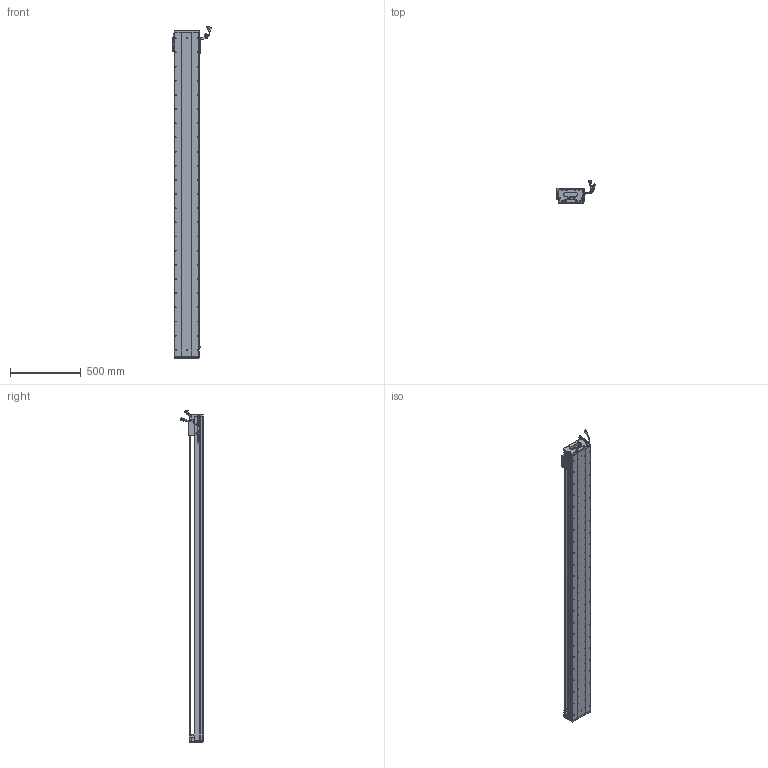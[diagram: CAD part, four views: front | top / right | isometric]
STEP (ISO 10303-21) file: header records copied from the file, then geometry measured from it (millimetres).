
FILE_DESCRIPTION (( 'STEP AP203' ), '1' );
FILE_NAME ('Z1-RY170D-1-L500-B-K.SLDASM_2100.step', '2021-05-17T08:54:41', ( '盈信电脑' ), ( '东莞市道滘镇水果街19号' ), 'SwSTEP 2.0', 'SolidWorks 2016', '' );
FILE_SCHEMA (( 'CONFIG_CONTROL_DESIGN' ));
Length unit declared in the file: millimetre
Products named in the file (36): Z-RY170詩湍奻揤裔; Z1-RY170臏賑輸(21遴); RY170直线电机感应器672光电感应片; SCREW-M1.6-1; SCALE-Part-1; SCREW-M1.6; Z1-RY170-L500耀郪菁釱_2100; COVER-Part-1; PBU_SHEET; SHIELDPLATE; 覜茼ん672; 080黍杅芛假蚾釱21遴; SEAL-Part-1; HARNESS-Part-1; COVER; LABEL-Part-1; SEAL; SCALE; 140雄赽晤鎢ん堤盄; SCREW-M1.6-3; Z-170詩湍傷裔啣; SCREW-M1.7; HOLDER0; Z1-RY170-L500詩湍145mm遵_2100; HARNESS-Part-2; SCREW-M1.7-1; 140蚥薯蝶輸; Z-RY170詩湍狟揤裔; SCALE-Part-2; Z1-RY170D-1-L500-B-K.SLDASM_2100; PSLH080_PSLF2; 170-Z-臏賑輸盄裔(21遴); SCREW-M1.6-2; HARNESS; LABEL; 榋妏寠巭燃_暯_M2_2
Assembly tree (41 placements, depth 4):
  Z1-RY170D-1-L500-B-K.SLDASM_2100
    Z1-RY170-L500耀郪菁釱_2100
    RY170直线电机感应器672光电感应片
    Z1-RY170臏賑輸(21遴)
    覜茼ん672  x3
    PSLH080_PSLF2
      SCALE
        SCALE-Part-1
        SCALE-Part-2
      HARNESS
        HARNESS-Part-1
        HARNESS-Part-2
      LABEL
        LABEL-Part-1
      COVER
        COVER-Part-1
      SEAL
        SEAL-Part-1
      榋妏寠巭燃_暯_M2_2
      SHIELDPLATE
      SCREW-M1.7
      SCREW-M1.7-1
      PBU_SHEET
      SCREW-M1.6
      SCREW-M1.6-1
      SCREW-M1.6-2
      SCREW-M1.6-3
      HOLDER0
    080黍杅芛假蚾釱21遴
    Z1-RY170-L500詩湍145mm遵_2100
    Z-170詩湍傷裔啣  x2
    Z-RY170詩湍奻揤裔  x2
    Z-RY170詩湍狟揤裔  x2
    140蚥薯蝶輸  x2
    170-Z-臏賑輸盄裔(21遴)
    140雄赽晤鎢ん堤盄
Bounding box: 275.34 x 158.11 x 2343.72 mm (x, y, z)
Volume: 11319418.7 mm3; surface area: 2829497.2 mm2
Topology: 36 solids, 36 shells, 3780 faces, 10455 edges, 6543 vertices
Faces by surface type: cylinder 1878, plane 1268, cone 512, torus 69, bspline 53
Entity records: 118103 total; most frequent: CARTESIAN_POINT 32956, ORIENTED_EDGE 17458, DIRECTION 16281, EDGE_CURVE 8729, AXIS2_PLACEMENT_3D 5974, VERTEX_POINT 5661, VECTOR 4333, LINE 4333
